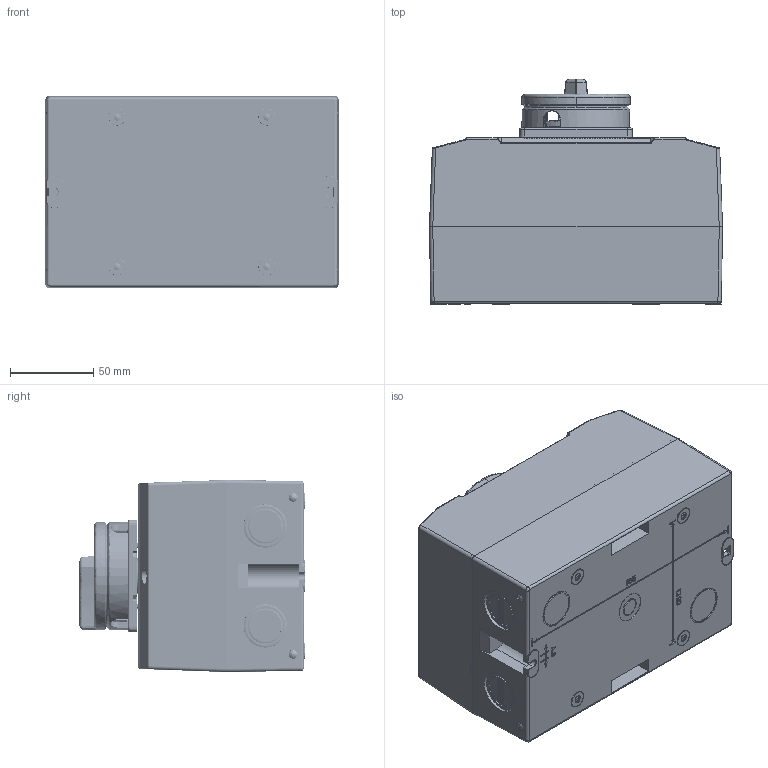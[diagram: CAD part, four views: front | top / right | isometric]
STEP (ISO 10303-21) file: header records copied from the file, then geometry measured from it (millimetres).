
FILE_DESCRIPTION (( 'STEP AP203' ), '1' );
FILE_NAME ('ukp3-盒装装配体无芯子.STEP', '2025-08-06T03:16:21', ( 'Windows User' ), ( 'P R C' ), 'SwSTEP 2.0', 'SolidWorks 2019', '' );
FILE_SCHEMA (( 'CONFIG_CONTROL_DESIGN' ));
Length unit declared in the file: millimetre
Products named in the file (23): PRTUKP3M3X26^ukp3-盒装装配体-20210308(2)_ukp3-盒装装配体-20210308; UKP1-UKP3-___^ukp3-盒装装配体-20210308(2)_ukp3-盒装装配体-20210308; UKP3-___1^ukp3-盒装装配体-20210308(2)_ukp3-盒装装配体-20210308; PRTUKP3M3X10^ukp3-盒装装配体-20210308(2)_ukp3-盒装装配体-20210308; PRTUKP3M4X16ZIGONGLUOSI_2^ukp3-盒装装配体-20210308(2)_ukp3-盒装装配体-20210308; ukp3-盒装装配体-20210308(2)^ukp3-盒装装配体-20210308; PRTUKP3M3X10_1^ukp3-盒装装配体-20210308(2)_ukp3-盒装装配体-20210308; PRTUKP3M4X16ZIGONGLUOSI_1^ukp3-盒装装配体-20210308(2)_ukp3-盒装装配体-20210308; UKP1-UKP3-______^ukp3-盒装装配体-20210308(2)_ukp3-盒装装配体-20210308; PRTUKP3M4X16ZIGONGLUOSI_3^ukp3-盒装装配体-20210308(2)_ukp3-盒装装配体-20210308; ___-__^ukp3-盒装装配体-20210308(2)_ukp3-盒装装配体-20210308; ukp3-盒装装配体无芯子; UKP0-UKP1-UKP3-___^ukp3-盒装装配体-20210308(2)_ukp3-盒装装配体-20210308; UKP1-UKP3-____1^ukp3-盒装装配体-20210308(2)_ukp3-盒装装配体-20210308; UKP3-______3^UKP1-UKP3-_______ukp3-盒装装配体-20210308(2)_ukp3-盒装装配体-20210308; UKP1-UKP3-____^UKP1-UKP3-_______ukp3-盒装装配体-20210308(2)_ukp3-盒装装配体-20210308; UKP1-UKP3-____10^UKP1-UKP3-_______ukp3-盒装装配体-20210308(2)_ukp3-盒装装配体-20210308; PRTUKP3M4X16ZIGONGLUOSI^ukp3-盒装装配体-20210308(2)_ukp3-盒装装配体-20210308; PRTUKP3M4X33YUANTOULUOSI_1^ukp3-盒装装配体-20210308(2)_ukp3-盒装装配体-20210308; PRTUKP3M4X33YUANTOULUOSI^ukp3-盒装装配体-20210308(2)_ukp3-盒装装配体-20210308; 2016-10-10-UKP3-1^ukp3-盒装装配体-20210308(2)_ukp3-盒装装配体-20210308; UKP1-UKP3-_____^ukp3-盒装装配体-20210308(2)_ukp3-盒装装配体-20210308; UKP3-____5^ukp3-盒装装配体-20210308(2)_ukp3-盒装装配体-20210308
Assembly tree (22 placements, depth 4):
  ukp3-盒装装配体无芯子
    ukp3-盒装装配体-20210308(2)^ukp3-盒装装配体-20210308
      UKP1-UKP3-______^ukp3-盒装装配体-20210308(2)_ukp3-盒装装配体-20210308
        UKP1-UKP3-____10^UKP1-UKP3-_______ukp3-盒装装配体-20210308(2)_ukp3-盒装装配体-20210308
        UKP1-UKP3-____^UKP1-UKP3-_______ukp3-盒装装配体-20210308(2)_ukp3-盒装装配体-20210308
        UKP3-______3^UKP1-UKP3-_______ukp3-盒装装配体-20210308(2)_ukp3-盒装装配体-20210308
      2016-10-10-UKP3-1^ukp3-盒装装配体-20210308(2)_ukp3-盒装装配体-20210308
      PRTUKP3M3X10^ukp3-盒装装配体-20210308(2)_ukp3-盒装装配体-20210308
      PRTUKP3M3X10_1^ukp3-盒装装配体-20210308(2)_ukp3-盒装装配体-20210308
      PRTUKP3M3X26^ukp3-盒装装配体-20210308(2)_ukp3-盒装装配体-20210308
      PRTUKP3M4X16ZIGONGLUOSI^ukp3-盒装装配体-20210308(2)_ukp3-盒装装配体-20210308
      PRTUKP3M4X16ZIGONGLUOSI_1^ukp3-盒装装配体-20210308(2)_ukp3-盒装装配体-20210308
      PRTUKP3M4X16ZIGONGLUOSI_2^ukp3-盒装装配体-20210308(2)_ukp3-盒装装配体-20210308
      PRTUKP3M4X16ZIGONGLUOSI_3^ukp3-盒装装配体-20210308(2)_ukp3-盒装装配体-20210308
      PRTUKP3M4X33YUANTOULUOSI^ukp3-盒装装配体-20210308(2)_ukp3-盒装装配体-20210308
      PRTUKP3M4X33YUANTOULUOSI_1^ukp3-盒装装配体-20210308(2)_ukp3-盒装装配体-20210308
      UKP0-UKP1-UKP3-___^ukp3-盒装装配体-20210308(2)_ukp3-盒装装配体-20210308
      UKP1-UKP3-_____^ukp3-盒装装配体-20210308(2)_ukp3-盒装装配体-20210308
      UKP1-UKP3-___^ukp3-盒装装配体-20210308(2)_ukp3-盒装装配体-20210308
      UKP1-UKP3-____1^ukp3-盒装装配体-20210308(2)_ukp3-盒装装配体-20210308
      UKP3-___1^ukp3-盒装装配体-20210308(2)_ukp3-盒装装配体-20210308
      UKP3-____5^ukp3-盒装装配体-20210308(2)_ukp3-盒装装配体-20210308
      ___-__^ukp3-盒装装配体-20210308(2)_ukp3-盒装装配体-20210308
Bounding box: 176 x 135.2 x 115.5 mm (x, y, z)
Volume: 363585.1 mm3; surface area: 298306 mm2
Topology: 20 solids, 20 shells, 4356 faces, 12210 edges, 8039 vertices
Faces by surface type: plane 2471, cylinder 936, bspline 786, cone 163
Entity records: 202031 total; most frequent: CARTESIAN_POINT 94458, ORIENTED_EDGE 24350, DIRECTION 18082, EDGE_CURVE 12175, VERTEX_POINT 8039, VECTOR 7462, LINE 7462, AXIS2_PLACEMENT_3D 5310
